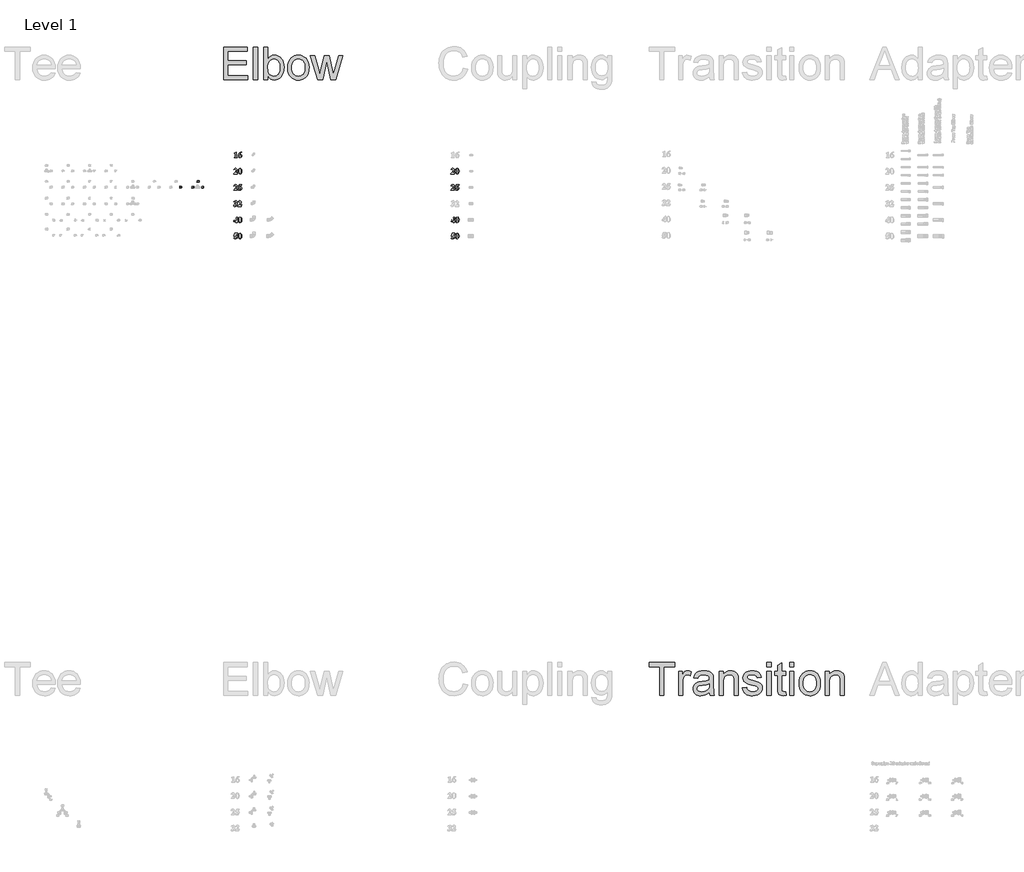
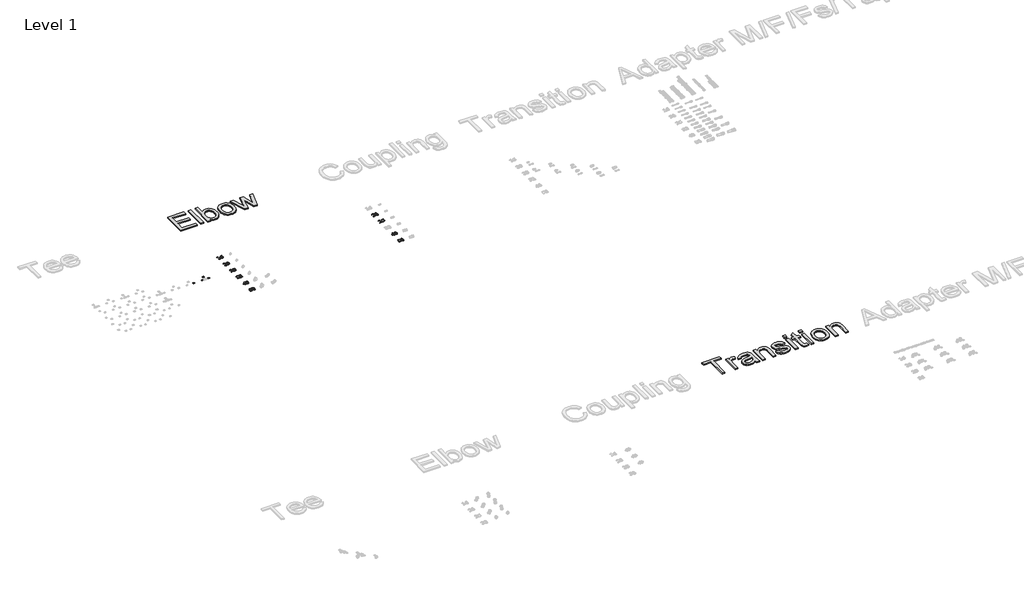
# One storey, part 37 of 57: 16 proxies.
"""IFC4 building model written with IfcOpenShell, lengths in millimetres."""

from ifc_helpers import new_model, si_unit, frame, origin, place, context, project, spatial, polyline, outline, extrude, element, save

model = new_model("IFC4")

# Units and contexts
model_context = context("Model", 3, world=origin())
ifc_project = project(units=[si_unit("LENGTHUNIT", "METRE", prefix="MILLI")], contexts=[model_context])

# Site, building, storey
site = spatial("IfcSite", under=ifc_project)
building = spatial("IfcBuilding", under=site)
storey = spatial("IfcBuildingStorey", under=building, Name="Level 1", Elevation=27.3876384)

# Proxies
placement = place(None, origin())
element("IfcBuildingElementProxy", 1, Name="100mm Arial", ObjectType="100mm Arial", at=placement, inside=storey, context=model_context, shape_type="SweptSolid", body=[
    extrude(outline(polyline([(21101.8109742, 29845.7038824), (21039.9478842, 29845.7038824), (21039.9478842, 29847.4488087), (21075.7188732, 29892.0534871), (21081.8261152, 29914.4376196), (21076.6049686, 29927.6745214), (21063.8588273, 29932.950197), (21052.8712446, 29930.0192661), (21044.6646381, 29921.2264735), (21041.8563973, 29922.235259), (21047.1150326, 29934.73602), (21054.5480097, 29943.5015482), (21063.725913, 29948.674982), (21074.2193272, 29950.3994599), (21088.7512914, 29946.8141817), (21099.0436301, 29936.9989713), (21102.7652307, 29925.3161445), (21097.2578071, 29905.1676987), (21085.2546227, 29888.6249795), (21064.3495878, 29866.6429979), (21086.3247533, 29866.6429979), (21096.8624723, 29867.2428163), (21100.8703498, 29869.2876518), (21105.0009175, 29875.3676294), (21108.0000096, 29875.3676294), (21101.8109742, 29845.7038824)])), frame((0.0, 0.0, 27.3876384), z_axis=(0.0, 0.0, 1.0), x_axis=(1.0, 0.0, 0.0)), (0.0, 0.0, 1.0), 2.0),
    extrude(outline(polyline([(21190.0115453, 29897.179208), (21185.5674362, 29868.60604), (21178.4514086, 29855.2737126), (21168.3090246, 29847.0125771), (21155.9582182, 29843.9589561), (21142.1760269, 29847.7214535), (21131.2838698, 29858.5181849), (21125.3129502, 29872.1504215), (21121.9594199, 29895.9795712), (21126.7852317, 29926.5703103), (21131.7746303, 29936.7569991), (21138.8361289, 29944.2513212), (21155.9582182, 29950.3994599), (21173.0939396, 29944.3331146), (21184.8040309, 29928.0153274), (21190.0115453, 29897.179208)]), holes=[polyline([(21167.3275035, 29897.179208), (21166.9730654, 29928.5333524), (21162.8561299, 29942.7381429), (21155.9036892, 29945.1646811), (21150.0690919, 29943.3379614), (21145.7613051, 29934.0135115), (21144.6434617, 29887.3639976), (21146.3611236, 29858.1910112), (21150.0554597, 29851.0068225), (21156.4217142, 29849.193735), (21162.8561299, 29851.6202731), (21166.9730654, 29864.6799559), (21167.3275035, 29897.179208)])]), frame((0.0, 0.0, 27.3876384), z_axis=(0.0, 0.0, 1.0), x_axis=(1.0, 0.0, 0.0)), (0.0, 0.0, 1.0), 2.0),
])
element("IfcBuildingElementProxy", 2, Name="100mm Arial", ObjectType="100mm Arial", at=placement, inside=storey, context=model_context, shape_type="SweptSolid", body=[
    extrude(outline(polyline([(21101.8109742, 29545.7013539), (21039.9478842, 29545.7013539), (21039.9478842, 29547.4462802), (21075.7188732, 29592.0509586), (21081.8261152, 29614.4350911), (21076.6049686, 29627.6719929), (21063.8588273, 29632.9476685), (21052.8712446, 29630.0167376), (21044.6646381, 29621.223945), (21041.8563973, 29622.2327305), (21047.1150326, 29634.7334915), (21054.5480097, 29643.4990197), (21063.725913, 29648.6724535), (21074.2193272, 29650.3969314), (21088.7512914, 29646.8116532), (21099.0436301, 29636.9964428), (21102.7652307, 29625.313616), (21097.2578071, 29605.1651702), (21085.2546227, 29588.622451), (21064.3495878, 29566.6404694), (21086.3247533, 29566.6404694), (21096.8624723, 29567.2402878), (21100.8703498, 29569.2851233), (21105.0009175, 29575.3651009), (21108.0000096, 29575.3651009), (21101.8109742, 29545.7013539)])), frame((0.0, 0.0, 27.3876384), z_axis=(0.0, 0.0, 1.0), x_axis=(1.0, 0.0, 0.0)), (0.0, 0.0, 1.0), 2.0),
    extrude(outline(polyline([(21141.1536091, 29648.6520051), (21190.0115453, 29648.6520051), (21183.0318402, 29627.7128896), (21138.7543355, 29627.7128896), (21135.5643921, 29618.9882582), (21159.8570378, 29615.2121286), (21177.8243258, 29605.846782), (21186.9647404, 29594.5933707), (21190.0115453, 29580.899789), (21184.3132704, 29562.1963603), (21168.5953015, 29548.5095947), (21146.6065038, 29543.9564276), (21126.7852317, 29548.7549749), (21121.9594199, 29556.4708209), (21124.4813837, 29562.3463149), (21130.3568777, 29564.8955431), (21136.4913842, 29563.5868484), (21147.1245288, 29556.6889367), (21155.3038708, 29551.9176538), (21160.729501, 29550.9361328), (21171.5807614, 29555.5029321), (21176.052135, 29566.4768826), (21172.6577081, 29578.5141476), (21162.4744273, 29588.0703454), (21147.1177127, 29594.3070937), (21128.2029843, 29596.3860098), (21121.9594199, 29596.3042164), (21141.1536091, 29648.6520051)])), frame((0.0, 0.0, 27.3876384), z_axis=(0.0, 0.0, 1.0), x_axis=(1.0, 0.0, 0.0)), (0.0, 0.0, 1.0), 2.0),
])
element("IfcBuildingElementProxy", 3, Name="100mm Arial", ObjectType="100mm Arial", at=placement, inside=storey, context=model_context, shape_type="SweptSolid", body=[
    extrude(outline(polyline([(21043.4377368, 28984.3646753), (21092.7046401, 29050.6718744), (21102.7652307, 29050.6718744), (21102.7652307, 28984.3646753), (21111.4898622, 28984.3646753), (21111.4898622, 28968.6603387), (21102.7652307, 28968.6603387), (21102.7652307, 28945.9762969), (21080.0811889, 28945.9762969), (21080.0811889, 28968.6603387), (21043.4377368, 28968.6603387), (21043.4377368, 28984.3646753)]), holes=[polyline([(21048.7270446, 28984.3646753), (21080.0811889, 28984.3646753), (21080.0811889, 29026.5428155), (21048.7270446, 28984.3646753)])]), frame((0.0, 0.0, 27.3876384), z_axis=(0.0, 0.0, 1.0), x_axis=(1.0, 0.0, 0.0)), (0.0, 0.0, 1.0), 2.0),
    extrude(outline(polyline([(21190.0115453, 28997.4516225), (21185.5674362, 28968.8784545), (21178.4514086, 28955.546127), (21168.3090246, 28947.2849916), (21155.9582182, 28944.2313706), (21142.1760269, 28947.9938679), (21131.2838698, 28958.7905994), (21125.3129502, 28972.422836), (21121.9594199, 28996.2519857), (21126.7852317, 29026.8427248), (21131.7746303, 29037.0294136), (21138.8361289, 29044.5237357), (21155.9582182, 29050.6718744), (21173.0939396, 29044.6055291), (21184.8040309, 29028.2877418), (21190.0115453, 28997.4516225)]), holes=[polyline([(21167.3275035, 28997.4516225), (21166.9730654, 29028.8057668), (21162.8561299, 29043.0105574), (21155.9036892, 29045.4370956), (21150.0690919, 29043.6103758), (21145.7613051, 29034.285926), (21144.6434617, 28987.6364121), (21146.3611236, 28958.4634257), (21150.0554597, 28951.279237), (21156.4217142, 28949.4661495), (21162.8561299, 28951.8926876), (21166.9730654, 28964.9523703), (21167.3275035, 28997.4516225)])]), frame((0.0, 0.0, 27.3876384), z_axis=(0.0, 0.0, 1.0), x_axis=(1.0, 0.0, 0.0)), (0.0, 0.0, 1.0), 2.0),
])
element("IfcBuildingElementProxy", 4, Name="100mm Arial", ObjectType="100mm Arial", at=placement, inside=storey, context=model_context, shape_type="SweptSolid", body=[
    extrude(outline(polyline([(21062.631926, 28748.9244196), (21111.4898622, 28748.9244196), (21104.510157, 28727.9853041), (21060.2326524, 28727.9853041), (21057.042709, 28719.2606727), (21081.3353547, 28715.4845431), (21099.3026426, 28706.1191965), (21108.4430573, 28694.8657852), (21111.4898622, 28681.1722034), (21105.7915873, 28662.4687748), (21090.0736184, 28648.7820091), (21068.0848207, 28644.2288421), (21048.2635486, 28649.0273894), (21043.4377368, 28656.7432354), (21045.9597006, 28662.6187294), (21051.8351946, 28665.1679576), (21057.9697011, 28663.8592629), (21068.6028457, 28656.9613511), (21076.7821877, 28652.1900683), (21082.2078178, 28651.2085473), (21093.0590782, 28655.7753466), (21097.5304518, 28666.7492971), (21094.1360249, 28678.786562), (21083.9527441, 28688.3427599), (21068.5960295, 28694.5795082), (21049.6813012, 28696.6584243), (21043.4377368, 28696.5766309), (21062.631926, 28748.9244196)])), frame((0.0, 0.0, 27.3876384), z_axis=(0.0, 0.0, 1.0), x_axis=(1.0, 0.0, 0.0)), (0.0, 0.0, 1.0), 2.0),
    extrude(outline(polyline([(21190.0115453, 28697.449094), (21185.5674362, 28668.875926), (21178.4514086, 28655.5435985), (21168.3090246, 28647.2824631), (21155.9582182, 28644.2288421), (21142.1760269, 28647.9913394), (21131.2838698, 28658.7880709), (21125.3129502, 28672.4203075), (21121.9594199, 28696.2494572), (21126.7852317, 28726.8401962), (21131.7746303, 28737.0268851), (21138.8361289, 28744.5212072), (21155.9582182, 28750.6693459), (21173.0939396, 28744.6030006), (21184.8040309, 28728.2852133), (21190.0115453, 28697.449094)]), holes=[polyline([(21167.3275035, 28697.449094), (21166.9730654, 28728.8032383), (21162.8561299, 28743.0080289), (21155.9036892, 28745.434567), (21150.0690919, 28743.6078473), (21145.7613051, 28734.2833975), (21144.6434617, 28687.6338836), (21146.3611236, 28658.4608972), (21150.0554597, 28651.2767085), (21156.4217142, 28649.463621), (21162.8561299, 28651.8901591), (21166.9730654, 28664.9498418), (21167.3275035, 28697.449094)])]), frame((0.0, 0.0, 27.3876384), z_axis=(0.0, 0.0, 1.0), x_axis=(1.0, 0.0, 0.0)), (0.0, 0.0, 1.0), 2.0),
])
element("IfcBuildingElementProxy", 5, Name="100mm Arial", ObjectType="100mm Arial", at=placement, inside=storey, context=model_context, shape_type="SweptSolid", body=[
    extrude(outline(polyline([(17077.4401841, 30250.6719885), (17077.4401841, 30166.9155264), (17078.299015, 30155.2190674), (17081.9115577, 30151.0748674), (17090.7179826, 30149.4662635), (17093.1445207, 30149.4662635), (17093.1445207, 30145.9764109), (17037.3068794, 30145.9764109), (17037.3068794, 30149.4662635), (17040.1151201, 30149.4662635), (17049.8212726, 30150.9385451), (17053.7337245, 30154.9736871), (17054.7561423, 30166.9155264), (17054.7561423, 30219.2633152), (17054.1017949, 30227.9197855), (17051.6752568, 30230.9052453), (17047.5855858, 30232.1594111), (17038.6155741, 30229.732873), (17037.3068794, 30233.2227255), (17074.959117, 30250.6719885), (17077.4401841, 30250.6719885)])), frame((0.0, 0.0, 27.3876384), z_axis=(0.0, 0.0, 1.0), x_axis=(1.0, 0.0, 0.0)), (0.0, 0.0, 1.0), 2.0),
    extrude(outline(polyline([(17178.645909, 30250.6719885), (17178.645909, 30248.9270622), (17156.6298468, 30239.8479926), (17143.5156351, 30226.3520783), (17136.0588017, 30206.694393), (17141.6207543, 30209.229989), (17151.5995515, 30210.5386837), (17162.2224719, 30208.4836241), (17170.9164308, 30202.318445), (17176.7135395, 30192.6088845), (17178.645909, 30179.9206802), (17174.4062834, 30161.6262186), (17162.3826507, 30148.7710194), (17145.7376897, 30144.2314846), (17127.9339886, 30149.4117346), (17115.1742151, 30164.584414), (17110.5937836, 30186.300567), (17112.6965561, 30202.9284876), (17119.0048736, 30218.2954264), (17129.1813383, 30231.5323282), (17142.8885523, 30241.7701379), (17159.5641858, 30248.3647324), (17178.645909, 30250.6719885)]), holes=[polyline([(17135.0227517, 30201.0779115), (17133.2778254, 30185.8915999), (17135.4726155, 30165.8385797), (17141.4844319, 30152.2472398), (17147.9461121, 30149.4662635), (17154.7213337, 30153.4877733), (17157.7067935, 30169.8328251), (17156.3844666, 30187.3502492), (17152.4174857, 30198.4605221), (17143.2293582, 30203.5589786), (17135.0227517, 30201.0779115)])]), frame((0.0, 0.0, 27.3876384), z_axis=(0.0, 0.0, 1.0), x_axis=(1.0, 0.0, 0.0)), (0.0, 0.0, 1.0), 2.0),
])
element("IfcBuildingElementProxy", 6, Name="100mm Arial", ObjectType="100mm Arial", at=placement, inside=storey, context=model_context, shape_type="SweptSolid", body=[
    extrude(outline(polyline([(17090.4453378, 29845.7038824), (17028.5822479, 29845.7038824), (17028.5822479, 29847.4488087), (17064.3532369, 29892.0534871), (17070.4604789, 29914.4376196), (17065.2393323, 29927.6745214), (17052.493191, 29932.950197), (17041.5056082, 29930.0192661), (17033.2990018, 29921.2264735), (17030.490761, 29922.235259), (17035.7493963, 29934.73602), (17043.1823734, 29943.5015482), (17052.3602767, 29948.674982), (17062.8536909, 29950.3994599), (17077.3856551, 29946.8141817), (17087.6779938, 29936.9989713), (17091.3995944, 29925.3161445), (17085.8921708, 29905.1676987), (17073.8889864, 29888.6249795), (17052.9839515, 29866.6429979), (17074.959117, 29866.6429979), (17085.4968359, 29867.2428163), (17089.5047135, 29869.2876518), (17093.6352812, 29875.3676294), (17096.6343733, 29875.3676294), (17090.4453378, 29845.7038824)])), frame((0.0, 0.0, 27.3876384), z_axis=(0.0, 0.0, 1.0), x_axis=(1.0, 0.0, 0.0)), (0.0, 0.0, 1.0), 2.0),
    extrude(outline(polyline([(17178.645909, 29897.179208), (17174.2017999, 29868.60604), (17167.0857723, 29855.2737126), (17156.9433883, 29847.0125771), (17144.5925818, 29843.9589561), (17130.8103906, 29847.7214535), (17119.9182335, 29858.5181849), (17113.9473138, 29872.1504215), (17110.5937836, 29895.9795712), (17115.4195954, 29926.5703103), (17120.408994, 29936.7569991), (17127.4704926, 29944.2513212), (17144.5925818, 29950.3994599), (17161.7283033, 29944.3331146), (17173.4383946, 29928.0153274), (17178.645909, 29897.179208)]), holes=[polyline([(17155.9618672, 29897.179208), (17155.6074291, 29928.5333524), (17151.4904936, 29942.7381429), (17144.5380529, 29945.1646811), (17138.7034556, 29943.3379614), (17134.3956688, 29934.0135115), (17133.2778254, 29887.3639976), (17134.9954872, 29858.1910112), (17138.6898234, 29851.0068225), (17145.0560779, 29849.193735), (17151.4904936, 29851.6202731), (17155.6074291, 29864.6799559), (17155.9618672, 29897.179208)])]), frame((0.0, 0.0, 27.3876384), z_axis=(0.0, 0.0, 1.0), x_axis=(1.0, 0.0, 0.0)), (0.0, 0.0, 1.0), 2.0),
])
element("IfcBuildingElementProxy", 7, Name="100mm Arial", ObjectType="100mm Arial", at=placement, inside=storey, context=model_context, shape_type="SweptSolid", body=[
    extrude(outline(polyline([(17090.4453378, 29545.7013539), (17028.5822479, 29545.7013539), (17028.5822479, 29547.4462802), (17064.3532369, 29592.0509586), (17070.4604789, 29614.4350911), (17065.2393323, 29627.6719929), (17052.493191, 29632.9476685), (17041.5056082, 29630.0167376), (17033.2990018, 29621.223945), (17030.490761, 29622.2327305), (17035.7493963, 29634.7334915), (17043.1823734, 29643.4990197), (17052.3602767, 29648.6724535), (17062.8536909, 29650.3969314), (17077.3856551, 29646.8116532), (17087.6779938, 29636.9964428), (17091.3995944, 29625.313616), (17085.8921708, 29605.1651702), (17073.8889864, 29588.622451), (17052.9839515, 29566.6404694), (17074.959117, 29566.6404694), (17085.4968359, 29567.2402878), (17089.5047135, 29569.2851233), (17093.6352812, 29575.3651009), (17096.6343733, 29575.3651009), (17090.4453378, 29545.7013539)])), frame((0.0, 0.0, 27.3876384), z_axis=(0.0, 0.0, 1.0), x_axis=(1.0, 0.0, 0.0)), (0.0, 0.0, 1.0), 2.0),
    extrude(outline(polyline([(17129.7879728, 29648.6520051), (17178.645909, 29648.6520051), (17171.6662038, 29627.7128896), (17127.3886992, 29627.7128896), (17124.1987558, 29618.9882582), (17148.4914015, 29615.2121286), (17166.4586894, 29605.846782), (17175.5991041, 29594.5933707), (17178.645909, 29580.899789), (17172.9476341, 29562.1963603), (17157.2296652, 29548.5095947), (17135.2408675, 29543.9564276), (17115.4195954, 29548.7549749), (17110.5937836, 29556.4708209), (17113.1157474, 29562.3463149), (17118.9912414, 29564.8955431), (17125.1257479, 29563.5868484), (17135.7588925, 29556.6889367), (17143.9382345, 29551.9176538), (17149.3638647, 29550.9361328), (17160.2151251, 29555.5029321), (17164.6864987, 29566.4768826), (17161.2920717, 29578.5141476), (17151.108791, 29588.0703454), (17135.7520764, 29594.3070937), (17116.837348, 29596.3860098), (17110.5937836, 29596.3042164), (17129.7879728, 29648.6520051)])), frame((0.0, 0.0, 27.3876384), z_axis=(0.0, 0.0, 1.0), x_axis=(1.0, 0.0, 0.0)), (0.0, 0.0, 1.0), 2.0),
])
element("IfcBuildingElementProxy", 8, Name="100mm Arial", ObjectType="100mm Arial", at=placement, inside=storey, context=model_context, shape_type="SweptSolid", body=[
    extrude(outline(polyline([(17047.7764371, 29301.5464668), (17047.7764371, 29303.291393), (17060.2090369, 29308.1035726), (17066.1935888, 29314.8924264), (17068.7155526, 29324.1487151), (17064.012431, 29335.2862525), (17052.3023397, 29339.9348452), (17042.241749, 29337.5014909), (17033.8170268, 29330.2014282), (17032.0721005, 29331.2102137), (17046.4813746, 29345.5922234), (17066.0708987, 29350.4044029), (17076.1212652, 29348.9525697), (17084.2426702, 29344.5970701), (17089.6103633, 29338.2989768), (17091.3995944, 29331.0193624), (17087.3917168, 29321.2450487), (17074.8227946, 29312.9702811), (17091.0451563, 29301.6827891), (17095.237069, 29294.1237139), (17096.6343733, 29284.8606091), (17093.6420973, 29269.0983355), (17084.6652695, 29255.8921062), (17070.6649625, 29246.9459509), (17052.6022489, 29243.9638991), (17041.0012155, 29245.2453294), (17033.026357, 29249.0896201), (17028.5822479, 29258.3868055), (17031.1587406, 29265.4619363), (17037.116028, 29268.3928672), (17041.9691043, 29267.3022883), (17050.8300581, 29260.5679634), (17065.1166421, 29254.4334569), (17075.0409104, 29258.8911983), (17079.1851104, 29270.1923224), (17077.1845796, 29280.2017922), (17071.1829874, 29289.4001439), (17061.3302884, 29296.8331209), (17047.7764371, 29301.5464668)])), frame((0.0, 0.0, 27.3876384), z_axis=(0.0, 0.0, 1.0), x_axis=(1.0, 0.0, 0.0)), (0.0, 0.0, 1.0), 2.0),
    extrude(outline(polyline([(17168.967021, 29245.7088254), (17107.103931, 29245.7088254), (17107.103931, 29247.4537517), (17142.87492, 29292.05843), (17148.982162, 29314.4425626), (17143.7610154, 29327.6794644), (17131.0148741, 29332.95514), (17120.0272914, 29330.0242091), (17111.8206849, 29321.2314165), (17109.0124442, 29322.240202), (17114.2710795, 29334.740963), (17121.7040565, 29343.5064912), (17130.8819598, 29348.679925), (17141.375374, 29350.4044029), (17155.9073383, 29346.8191247), (17166.1996769, 29337.0039143), (17169.9212776, 29325.3210875), (17164.4138539, 29305.1726417), (17152.4106696, 29288.6299225), (17131.5056347, 29266.6479409), (17153.4808001, 29266.6479409), (17164.0185191, 29267.2477593), (17168.0263967, 29269.2925948), (17172.1569644, 29275.3725724), (17175.1560564, 29275.3725724), (17168.967021, 29245.7088254)])), frame((0.0, 0.0, 27.3876384), z_axis=(0.0, 0.0, 1.0), x_axis=(1.0, 0.0, 0.0)), (0.0, 0.0, 1.0), 2.0),
])
element("IfcBuildingElementProxy", 9, Name="100mm Arial", ObjectType="100mm Arial", at=placement, inside=storey, context=model_context, shape_type="SweptSolid", body=[
    extrude(outline(polyline([(17032.0721005, 28984.3646753), (17081.3390038, 29050.6718744), (17091.3995944, 29050.6718744), (17091.3995944, 28984.3646753), (17100.1242259, 28984.3646753), (17100.1242259, 28968.6603387), (17091.3995944, 28968.6603387), (17091.3995944, 28945.9762969), (17068.7155526, 28945.9762969), (17068.7155526, 28968.6603387), (17032.0721005, 28968.6603387), (17032.0721005, 28984.3646753)]), holes=[polyline([(17037.3614083, 28984.3646753), (17068.7155526, 28984.3646753), (17068.7155526, 29026.5428155), (17037.3614083, 28984.3646753)])]), frame((0.0, 0.0, 27.3876384), z_axis=(0.0, 0.0, 1.0), x_axis=(1.0, 0.0, 0.0)), (0.0, 0.0, 1.0), 2.0),
    extrude(outline(polyline([(17178.645909, 28997.4516225), (17174.2017999, 28968.8784545), (17167.0857723, 28955.546127), (17156.9433883, 28947.2849916), (17144.5925818, 28944.2313706), (17130.8103906, 28947.9938679), (17119.9182335, 28958.7905994), (17113.9473138, 28972.422836), (17110.5937836, 28996.2519857), (17115.4195954, 29026.8427248), (17120.408994, 29037.0294136), (17127.4704926, 29044.5237357), (17144.5925818, 29050.6718744), (17161.7283033, 29044.6055291), (17173.4383946, 29028.2877418), (17178.645909, 28997.4516225)]), holes=[polyline([(17155.9618672, 28997.4516225), (17155.6074291, 29028.8057668), (17151.4904936, 29043.0105574), (17144.5380529, 29045.4370956), (17138.7034556, 29043.6103758), (17134.3956688, 29034.285926), (17133.2778254, 28987.6364121), (17134.9954872, 28958.4634257), (17138.6898234, 28951.279237), (17145.0560779, 28949.4661495), (17151.4904936, 28951.8926876), (17155.6074291, 28964.9523703), (17155.9618672, 28997.4516225)])]), frame((0.0, 0.0, 27.3876384), z_axis=(0.0, 0.0, 1.0), x_axis=(1.0, 0.0, 0.0)), (0.0, 0.0, 1.0), 2.0),
])
element("IfcBuildingElementProxy", 10, Name="100mm Arial", ObjectType="100mm Arial", at=placement, inside=storey, context=model_context, shape_type="SweptSolid", body=[
    extrude(outline(polyline([(17051.2662897, 28748.9244196), (17100.1242259, 28748.9244196), (17093.1445207, 28727.9853041), (17048.867016, 28727.9853041), (17045.6770727, 28719.2606727), (17069.9697184, 28715.4845431), (17087.9370063, 28706.1191965), (17097.077421, 28694.8657852), (17100.1242259, 28681.1722034), (17094.4259509, 28662.4687748), (17078.7079821, 28648.7820091), (17056.7191844, 28644.2288421), (17036.8979123, 28649.0273894), (17032.0721005, 28656.7432354), (17034.5940643, 28662.6187294), (17040.4695583, 28665.1679576), (17046.6040648, 28663.8592629), (17057.2372093, 28656.9613511), (17065.4165513, 28652.1900683), (17070.8421815, 28651.2085473), (17081.6934419, 28655.7753466), (17086.1648155, 28666.7492971), (17082.7703886, 28678.786562), (17072.5871078, 28688.3427599), (17057.2303932, 28694.5795082), (17038.3156649, 28696.6584243), (17032.0721005, 28696.5766309), (17051.2662897, 28748.9244196)])), frame((0.0, 0.0, 27.3876384), z_axis=(0.0, 0.0, 1.0), x_axis=(1.0, 0.0, 0.0)), (0.0, 0.0, 1.0), 2.0),
    extrude(outline(polyline([(17178.645909, 28697.449094), (17174.2017999, 28668.875926), (17167.0857723, 28655.5435985), (17156.9433883, 28647.2824631), (17144.5925818, 28644.2288421), (17130.8103906, 28647.9913394), (17119.9182335, 28658.7880709), (17113.9473138, 28672.4203075), (17110.5937836, 28696.2494572), (17115.4195954, 28726.8401962), (17120.408994, 28737.0268851), (17127.4704926, 28744.5212072), (17144.5925818, 28750.6693459), (17161.7283033, 28744.6030006), (17173.4383946, 28728.2852133), (17178.645909, 28697.449094)]), holes=[polyline([(17155.9618672, 28697.449094), (17155.6074291, 28728.8032383), (17151.4904936, 28743.0080289), (17144.5380529, 28745.434567), (17138.7034556, 28743.6078473), (17134.3956688, 28734.2833975), (17133.2778254, 28687.6338836), (17134.9954872, 28658.4608972), (17138.6898234, 28651.2767085), (17145.0560779, 28649.463621), (17151.4904936, 28651.8901591), (17155.6074291, 28664.9498418), (17155.9618672, 28697.449094)])]), frame((0.0, 0.0, 27.3876384), z_axis=(0.0, 0.0, 1.0), x_axis=(1.0, 0.0, 0.0)), (0.0, 0.0, 1.0), 2.0),
])
element("IfcBuildingElementProxy", 11, Name="30mm Arial", ObjectType="30mm Arial", at=placement, inside=storey, context=model_context, shape_type="SweptSolid", body=[
    extrude(outline(polyline([(16040.6628204, 29586.7013539), (16034.8327667, 29586.7013539), (16034.8327667, 29608.5792378), (16027.5451995, 29603.7056773), (16027.5451995, 29609.535731), (16032.4111688, 29612.3938237), (16036.0169963, 29617.3091359), (16040.6628204, 29617.3091359), (16040.6628204, 29586.7013539)])), frame((0.0, 0.0, 27.3876384), z_axis=(0.0, 0.0, 1.0), x_axis=(1.0, 0.0, 0.0)), (0.0, 0.0, 1.0), 2.0),
    extrude(outline(polyline([(16068.3555755, 29609.186535), (16062.5255218, 29608.5640553), (16061.4931165, 29611.1336819), (16059.3220287, 29611.96492), (16056.3310897, 29610.3517867), (16054.7900729, 29603.5766266), (16060.1191064, 29606.1348663), (16066.279378, 29603.4020286), (16068.8414133, 29596.3497892), (16066.2224439, 29588.9901055), (16059.4890355, 29586.2155161), (16052.2470156, 29589.79857), (16049.4079009, 29601.5421808), (16052.3722707, 29613.6122138), (16060.0735591, 29617.3091359), (16065.5771905, 29615.2291428), (16068.3555755, 29609.186535)]), holes=[polyline([(16055.2379547, 29596.4788398), (16056.4980965, 29592.8388519), (16059.3751673, 29591.559732), (16061.971363, 29592.6073198), (16063.0113596, 29596.0461405), (16061.8916553, 29599.6481724), (16059.0942923, 29600.7906504), (16056.357659, 29599.6975153), (16055.2379547, 29596.4788398)])]), frame((0.0, 0.0, 27.3876384), z_axis=(0.0, 0.0, 1.0), x_axis=(1.0, 0.0, 0.0)), (0.0, 0.0, 1.0), 2.0),
])
element("IfcBuildingElementProxy", 12, Name="30mm Arial", ObjectType="30mm Arial", at=placement, inside=storey, context=model_context, shape_type="SweptSolid", body=[
    extrude(outline(polyline([(16369.1677636, 29696.4736422), (16369.1677636, 29690.6435885), (16349.7342512, 29690.6435885), (16351.5940991, 29696.3635696), (16357.7050278, 29703.5334729), (16362.21421, 29708.4222158), (16363.3377099, 29711.9293575), (16362.3926035, 29714.8785448), (16359.7850209, 29715.9071546), (16357.1736427, 29714.8937273), (16356.0501428, 29711.5346143), (16350.2200891, 29712.0659994), (16353.34767, 29719.1144432), (16359.9140716, 29721.2513705), (16366.7006185, 29718.8563419), (16369.1677636, 29712.9010331), (16368.4921454, 29709.0446955), (16366.3514226, 29705.2111315), (16362.726617, 29701.3851588), (16359.3978689, 29698.0677975), (16358.3047339, 29696.4736422), (16369.1677636, 29696.4736422)])), frame((0.0, 0.0, 27.3876384), z_axis=(0.0, 0.0, 1.0), x_axis=(1.0, 0.0, 0.0)), (0.0, 0.0, 1.0), 2.0),
    extrude(outline(polyline([(16373.0544661, 29699.2596184), (16378.398682, 29699.8745068), (16379.8865603, 29696.678605), (16382.7408574, 29695.5019666), (16385.8646427, 29696.7507216), (16387.1437626, 29700.512169), (16385.9557373, 29704.0420843), (16382.8623169, 29705.2187228), (16378.5960536, 29702.7895337), (16373.5403039, 29703.5410641), (16376.9411686, 29720.7655327), (16391.5163029, 29720.7655327), (16391.5163029, 29714.9354789), (16381.6553136, 29714.9354789), (16380.4786751, 29709.3711178), (16384.2363269, 29710.5629387), (16390.430759, 29707.8035317), (16392.9738163, 29700.6412196), (16390.8558671, 29694.0900004), (16382.831952, 29690.1577507), (16376.1478865, 29692.6248958), (16373.0544661, 29699.2596184)])), frame((0.0, 0.0, 27.3876384), z_axis=(0.0, 0.0, 1.0), x_axis=(1.0, 0.0, 0.0)), (0.0, 0.0, 1.0), 2.0),
])
element("IfcBuildingElementProxy", 13, Name="30mm Arial", ObjectType="30mm Arial", at=placement, inside=storey, context=model_context, shape_type="SweptSolid", body=[
    extrude(outline(polyline([(16453.0726096, 29592.5314076), (16453.0726096, 29586.7013539), (16433.6390972, 29586.7013539), (16435.4989451, 29592.421335), (16441.6098738, 29599.5912383), (16446.119056, 29604.4799813), (16447.2425559, 29607.9871229), (16446.2974495, 29610.9363103), (16443.6898669, 29611.96492), (16441.0784887, 29610.9514927), (16439.9549887, 29607.5923797), (16434.124935, 29608.1237648), (16437.2525159, 29615.1722087), (16443.8189176, 29617.3091359), (16450.6054645, 29614.9141073), (16453.0726096, 29608.9587986), (16452.3969914, 29605.102461), (16450.2562686, 29601.268897), (16446.631463, 29597.4429242), (16443.3027149, 29594.1255629), (16442.2095798, 29592.5314076), (16453.0726096, 29592.5314076)])), frame((0.0, 0.0, 27.3876384), z_axis=(0.0, 0.0, 1.0), x_axis=(1.0, 0.0, 0.0)), (0.0, 0.0, 1.0), 2.0),
    extrude(outline(polyline([(16466.6760683, 29617.3091359), (16473.4702064, 29614.1511902), (16476.3928245, 29601.7547348), (16473.455024, 29589.3279146), (16466.6760683, 29586.2155161), (16459.6352156, 29589.6315632), (16456.9593121, 29601.8154645), (16459.8971126, 29614.1967375), (16466.6760683, 29617.3091359)]), holes=[polyline([(16466.6760683, 29611.96492), (16464.732717, 29611.3234623), (16463.4118455, 29609.0195283), (16462.7893658, 29601.7547348), (16463.3435245, 29594.7366558), (16464.7441039, 29592.1935985), (16466.6760683, 29591.559732), (16468.6194195, 29592.2011897), (16469.9402911, 29594.5051237), (16470.5627707, 29601.7547348), (16470.008612, 29608.7690182), (16468.6080327, 29611.3234623), (16466.6760683, 29611.96492)])]), frame((0.0, 0.0, 27.3876384), z_axis=(0.0, 0.0, 1.0), x_axis=(1.0, 0.0, 0.0)), (0.0, 0.0, 1.0), 2.0),
])
element("IfcBuildingElementProxy", 14, Name="30mm Arial", ObjectType="30mm Arial", at=placement, inside=storey, context=model_context, shape_type="SweptSolid", body=[
    extrude(outline(polyline([(16273.0726096, 29592.5314076), (16273.0726096, 29586.7013539), (16253.6390972, 29586.7013539), (16255.4989451, 29592.421335), (16261.6098738, 29599.5912383), (16266.119056, 29604.4799813), (16267.2425559, 29607.9871229), (16266.2974495, 29610.9363103), (16263.6898669, 29611.96492), (16261.0784887, 29610.9514927), (16259.9549887, 29607.5923797), (16254.124935, 29608.1237648), (16257.2525159, 29615.1722087), (16263.8189176, 29617.3091359), (16270.6054645, 29614.9141073), (16273.0726096, 29608.9587986), (16272.3969914, 29605.102461), (16270.2562686, 29601.268897), (16266.631463, 29597.4429242), (16263.3027149, 29594.1255629), (16262.2095798, 29592.5314076), (16273.0726096, 29592.5314076)])), frame((0.0, 0.0, 27.3876384), z_axis=(0.0, 0.0, 1.0), x_axis=(1.0, 0.0, 0.0)), (0.0, 0.0, 1.0), 2.0),
    extrude(outline(polyline([(16286.6760683, 29617.3091359), (16293.4702064, 29614.1511902), (16296.3928245, 29601.7547348), (16293.455024, 29589.3279146), (16286.6760683, 29586.2155161), (16279.6352156, 29589.6315632), (16276.9593121, 29601.8154645), (16279.8971126, 29614.1967375), (16286.6760683, 29617.3091359)]), holes=[polyline([(16286.6760683, 29611.96492), (16284.732717, 29611.3234623), (16283.4118455, 29609.0195283), (16282.7893658, 29601.7547348), (16283.3435245, 29594.7366558), (16284.7441039, 29592.1935985), (16286.6760683, 29591.559732), (16288.6194195, 29592.2011897), (16289.9402911, 29594.5051237), (16290.5627707, 29601.7547348), (16290.008612, 29608.7690182), (16288.6080327, 29611.3234623), (16286.6760683, 29611.96492)])]), frame((0.0, 0.0, 27.3876384), z_axis=(0.0, 0.0, 1.0), x_axis=(1.0, 0.0, 0.0)), (0.0, 0.0, 1.0), 2.0),
])
element("IfcBuildingElementProxy", 15, Name="600mm Arial", ObjectType="600mm Arial", at=placement, inside=storey, context=model_context, shape_type="SweptSolid", body=[
    extrude(outline(polyline([(24897.427256, 20213.7679008), (24897.427256, 20741.1635291), (24699.6538954, 20741.1635291), (24699.6538954, 20816.5057617), (25170.5428492, 20816.5057617), (25170.5428492, 20741.1635291), (24972.7694886, 20741.1635291), (24972.7694886, 20213.7679008), (24897.427256, 20213.7679008)])), frame((0.0, 0.0, 27.3876384), z_axis=(0.0, 0.0, 1.0), x_axis=(1.0, 0.0, 0.0)), (0.0, 0.0, 1.0), 30.0),
    extrude(outline(polyline([(25245.8850818, 20213.7679008), (25245.8850818, 20656.4035174), (25311.8095354, 20656.4035174), (25311.8095354, 20590.9205223), (25336.1633235, 20628.8859442), (25358.6041252, 20651.2531695), (25381.1185033, 20662.1792647), (25405.6930205, 20665.8212965), (25443.2169841, 20660.008761), (25481.3295588, 20642.5711544), (25456.1664303, 20575.0280201), (25429.6789266, 20586.6163029), (25403.191423, 20590.4790639), (25380.695439, 20586.7634557), (25360.5906879, 20575.6166313), (25344.3486979, 20557.8847191), (25333.4409967, 20534.4138478), (25324.280735, 20492.3281476), (25321.2273145, 20446.4164746), (25321.2273145, 20213.7679008), (25245.8850818, 20213.7679008)])), frame((0.0, 0.0, 27.3876384), z_axis=(0.0, 0.0, 1.0), x_axis=(1.0, 0.0, 0.0)), (0.0, 0.0, 1.0), 30.0),
    extrude(outline(polyline([(25810.9518264, 20270.2745753), (25774.9545732, 20239.4092759), (25737.8904622, 20219.2125543), (25698.9133648, 20208.0657299), (25657.1771524, 20204.3501217), (25623.630913, 20206.5850048), (25594.214149, 20213.2896542), (25568.9268603, 20224.4640698), (25547.7690471, 20240.1082517), (25531.062606, 20259.2289184), (25519.1294338, 20280.8327885), (25511.9695304, 20304.9198622), (25509.582896, 20331.4901393), (25513.1881395, 20362.7233207), (25524.0038702, 20391.0870225), (25540.6873187, 20415.3672342), (25561.8957157, 20434.3499451), (25586.8197209, 20448.6973429), (25614.6499938, 20459.0716152), (25679.8386834, 20470.4023806), (25756.8731731, 20482.3217573), (25810.510368, 20496.3012731), (25810.9518264, 20513.0766921), (25805.7646903, 20546.7011064), (25799.2807701, 20559.153912), (25790.2032819, 20568.7004498), (25774.5131148, 20578.2285934), (25755.4016452, 20585.0344103), (25706.9147982, 20590.4790639), (25662.0331948, 20586.8554262), (25630.6896488, 20575.9845133), (25609.3157049, 20555.8797622), (25594.3429077, 20524.5546103), (25519.0006751, 20533.9723894), (25532.07888, 20575.1751729), (25551.5950198, 20607.5487884), (25579.3701105, 20632.3072467), (25617.2251678, 20650.6645583), (25663.5231169, 20662.0321119), (25716.6268829, 20665.8212965), (25767.5601451, 20662.4735703), (25807.9351941, 20652.4303919), (25838.3774292, 20637.328836), (25859.5122498, 20618.8059775), (25873.5285538, 20595.9053233), (25882.6152391, 20567.6703802), (25886.294059, 20501.7459266), (25886.294059, 20408.0095943), (25890.1200318, 20277.1171804), (25895.7854145, 20244.7619589), (25905.1296172, 20213.7679008), (25829.7873846, 20213.7679008), (25817.7208551, 20239.9610989), (25810.9518264, 20270.2745753)]), holes=[polyline([(25810.9518264, 20420.9590405), (25760.3312639, 20408.4142645), (25689.4036152, 20397.8560512), (25624.5828077, 20385.642369), (25607.7154182, 20377.2914477), (25595.2258245, 20365.7767412), (25587.5003026, 20351.9811664), (25584.9251286, 20336.78764), (25590.535329, 20314.3836265), (25607.3659303, 20296.0263149), (25635.0490504, 20283.7758445), (25673.2168074, 20279.6923543), (25713.6838269, 20284.1989088), (25749.4419568, 20297.7185721), (25778.4310581, 20317.6393821), (25798.5909914, 20341.3493767), (25807.5305239, 20365.7767412), (25810.510368, 20399.6218848), (25810.9518264, 20420.9590405)])]), frame((0.0, 0.0, 27.3876384), z_axis=(0.0, 0.0, 1.0), x_axis=(1.0, 0.0, 0.0)), (0.0, 0.0, 1.0), 30.0),
    extrude(outline(polyline([(25989.8896289, 20213.7679008), (25989.8896289, 20656.4035174), (26065.2318615, 20656.4035174), (26065.2318615, 20594.5993422), (26091.4066655, 20625.7589472), (26122.8421819, 20648.0158079), (26159.538411, 20661.3699243), (26201.4953525, 20665.8212965), (26238.6330399, 20662.234447), (26272.6437304, 20651.4738987), (26301.0074322, 20634.8824207), (26321.2041537, 20613.8027824), (26334.9077581, 20588.290166), (26343.7921082, 20558.3997539), (26347.7652338, 20485.5591188), (26347.7652338, 20213.7679008), (26272.4230012, 20213.7679008), (26272.4230012, 20475.4055758), (26270.2524974, 20514.3642791), (26263.7409861, 20542.0657933), (26251.729639, 20561.9130269), (26233.0596277, 20577.3088884), (26209.1289039, 20587.18652), (26181.3354192, 20590.4790639), (26158.4577576, 20588.6304568), (26137.2079739, 20583.0846358), (26117.5860679, 20573.8416006), (26099.5920398, 20560.9013515), (26084.5594618, 20542.7923602), (26073.8219061, 20518.043099), (26067.3793726, 20486.6535678), (26065.2318615, 20448.6237665), (26065.2318615, 20213.7679008), (25989.8896289, 20213.7679008)])), frame((0.0, 0.0, 27.3876384), z_axis=(0.0, 0.0, 1.0), x_axis=(1.0, 0.0, 0.0)), (0.0, 0.0, 1.0), 30.0),
    extrude(outline(polyline([(26423.1074664, 20345.6168079), (26498.449699, 20355.034587), (26503.0022387, 20337.8544978), (26510.3322875, 20322.8081242), (26520.4398453, 20309.8954661), (26533.3249122, 20299.1165237), (26549.0242763, 20290.6184496), (26567.5747259, 20284.5483967), (26613.2288815, 20279.6923543), (26658.3312141, 20284.1437265), (26675.8607912, 20289.7079417), (26690.0426421, 20297.4978429), (26708.8046239, 20316.8484359), (26713.4951193, 20327.6825606), (26715.0586178, 20339.2892376), (26713.4859222, 20349.4611747), (26708.7678357, 20358.4926777), (26689.8954893, 20373.1343811), (26661.6789403, 20382.699313), (26612.3459647, 20394.6186896), (26543.5888198, 20414.5027115), (26498.8911574, 20431.4804656), (26470.1779677, 20450.003324), (26449.3742409, 20474.522659), (26436.7374943, 20503.474972), (26432.5252455, 20535.2967646), (26435.9097598, 20564.4882009), (26446.0633029, 20591.4355571), (26462.0661697, 20615.0719752), (26482.9986552, 20634.3305977), (26503.802382, 20646.4523094), (26530.896891, 20656.6242466), (26562.2220429, 20663.522034), (26595.7176985, 20665.8212965), (26644.7563685, 20662.1240824), (26687.3938917, 20651.0324403), (26721.6804937, 20633.6316219), (26745.6663998, 20611.0068792), (26761.558902, 20581.4843491), (26771.5652922, 20543.3901685), (26696.2230596, 20533.9723894), (26686.7133101, 20557.682384), (26667.896146, 20575.5430549), (26639.5876265, 20586.7450616), (26601.6038105, 20590.4790639), (26558.3408878, 20586.9106085), (26529.4989394, 20576.2052425), (26513.2753434, 20560.7541987), (26507.8674781, 20542.9487101), (26510.1115583, 20531.3604272), (26516.8437988, 20521.0229432), (26528.3585052, 20511.7891051), (26544.9499832, 20504.394677), (26609.8443672, 20488.355022), (26720.4296949, 20452.8911977), (26749.6395253, 20435.9318377), (26771.7860214, 20412.7184838), (26785.7471432, 20383.1775596), (26790.4008504, 20347.2354887), (26784.9378028, 20310.0794071), (26768.5486599, 20275.1306176), (26741.8588211, 20245.1298409), (26705.4936859, 20222.8177979), (26661.5685757, 20208.9670408), (26612.1988119, 20204.3501217), (26571.649019, 20206.5758078), (26536.2311799, 20213.252866), (26505.9452947, 20224.3812964), (26480.7913633, 20239.9610989), (26460.2451538, 20259.9186971), (26443.7824345, 20284.1805147), (26431.4032054, 20312.7465516), (26423.1074664, 20345.6168079)])), frame((0.0, 0.0, 27.3876384), z_axis=(0.0, 0.0, 1.0), x_axis=(1.0, 0.0, 0.0)), (0.0, 0.0, 1.0), 30.0),
    extrude(outline(polyline([(26875.1608621, 20213.7679008), (26875.1608621, 20656.4035174), (26950.5030947, 20656.4035174), (26950.5030947, 20213.7679008), (26875.1608621, 20213.7679008)])), frame((0.0, 0.0, 27.3876384), z_axis=(0.0, 0.0, 1.0), x_axis=(1.0, 0.0, 0.0)), (0.0, 0.0, 1.0), 30.0),
    extrude(outline(polyline([(26875.1608621, 20741.1635291), (26875.1608621, 20816.5057617), (26950.5030947, 20816.5057617), (26950.5030947, 20741.1635291), (26875.1608621, 20741.1635291)])), frame((0.0, 0.0, 27.3876384), z_axis=(0.0, 0.0, 1.0), x_axis=(1.0, 0.0, 0.0)), (0.0, 0.0, 1.0), 30.0),
    extrude(outline(polyline([(27223.6186879, 20276.6021456), (27233.036467, 20211.5606088), (27176.6769453, 20204.3501217), (27140.5141452, 20207.4771187), (27113.548395, 20216.8581096), (27094.4921076, 20231.315872), (27082.0576962, 20249.6731835), (27075.2150911, 20281.2006705), (27072.9342227, 20335.1689592), (27072.9342227, 20581.0612848), (27016.4275482, 20581.0612848), (27016.4275482, 20656.4035174), (27072.9342227, 20656.4035174), (27072.9342227, 20763.9722128), (27148.2764553, 20808.265205), (27148.2764553, 20656.4035174), (27223.6186879, 20656.4035174), (27223.6186879, 20581.0612848), (27148.2764553, 20581.0612848), (27148.2764553, 20337.3762512), (27152.2495808, 20298.5279125), (27165.1254507, 20284.7691259), (27175.9963636, 20280.9615472), (27190.8036139, 20279.6923543), (27223.6186879, 20276.6021456)])), frame((0.0, 0.0, 27.3876384), z_axis=(0.0, 0.0, 1.0), x_axis=(1.0, 0.0, 0.0)), (0.0, 0.0, 1.0), 30.0),
    extrude(outline(polyline([(27298.9609205, 20213.7679008), (27298.9609205, 20656.4035174), (27374.3031531, 20656.4035174), (27374.3031531, 20213.7679008), (27298.9609205, 20213.7679008)])), frame((0.0, 0.0, 27.3876384), z_axis=(0.0, 0.0, 1.0), x_axis=(1.0, 0.0, 0.0)), (0.0, 0.0, 1.0), 30.0),
    extrude(outline(polyline([(27298.9609205, 20741.1635291), (27298.9609205, 20816.5057617), (27374.3031531, 20816.5057617), (27374.3031531, 20741.1635291), (27298.9609205, 20741.1635291)])), frame((0.0, 0.0, 27.3876384), z_axis=(0.0, 0.0, 1.0), x_axis=(1.0, 0.0, 0.0)), (0.0, 0.0, 1.0), 30.0),
    extrude(outline(polyline([(27468.4809439, 20435.0857091), (27472.555237, 20492.410921), (27484.7781163, 20541.8082759), (27505.1495818, 20583.2777738), (27533.6696334, 20616.8194147), (27562.3828232, 20638.257738), (27594.0758571, 20653.570826), (27628.7487351, 20662.7586789), (27666.4014573, 20665.8212965), (27707.9675242, 20662.0918928), (27745.5512686, 20650.9036816), (27779.1526903, 20632.2566629), (27808.7717894, 20606.1508369), (27832.946235, 20573.4691201), (27850.2136962, 20535.0944295), (27860.5741729, 20491.026765), (27864.0276651, 20441.2661266), (27862.5009548, 20400.9370629), (27857.920824, 20365.1513418), (27850.2872726, 20333.9089634), (27839.6003006, 20307.2099276), (27825.9932653, 20284.148325), (27809.5995239, 20263.8182462), (27790.4190764, 20246.2196913), (27768.4519228, 20231.3526602), (27744.5533887, 20219.5390496), (27719.5787997, 20211.1007563), (27693.5281559, 20206.0377804), (27666.4014573, 20204.3501217), (27624.2283851, 20208.0657299), (27586.2951529, 20219.2125543), (27552.6017606, 20237.7905951), (27523.1482084, 20263.7998521), (27499.2312802, 20296.7988671), (27482.14776, 20336.3461816), (27471.8976479, 20382.4417956), (27468.4809439, 20435.0857091)]), holes=[polyline([(27543.8231765, 20435.2328619), (27546.0028773, 20398.6883842), (27552.5419798, 20367.0459341), (27563.4404839, 20340.3055116), (27578.6983897, 20318.4671166), (27597.2580363, 20301.5031581), (27618.0617631, 20289.3860449), (27641.1095701, 20282.115777), (27666.4014573, 20279.6923543), (27691.5645858, 20282.1295726), (27714.5204223, 20289.4412272), (27735.2689668, 20301.6273183), (27753.8102194, 20318.6878458), (27769.0681251, 20340.7423714), (27779.9666292, 20367.9104568), (27786.5057317, 20400.1921019), (27788.6854325, 20437.5873067), (27786.4919361, 20472.9729561), (27779.9114469, 20503.7876717), (27768.9439649, 20530.0314535), (27753.5894902, 20551.7043016), (27734.9792597, 20568.6682601), (27714.2445108, 20580.7853733), (27691.3852433, 20588.0556412), (27666.4014573, 20590.4790639), (27641.1095701, 20588.0648383), (27618.0617631, 20580.8221615), (27597.2580363, 20568.7510335), (27578.6983897, 20551.8514544), (27563.4404839, 20530.0774388), (27552.5419798, 20503.3830015), (27546.0028773, 20471.7681425), (27543.8231765, 20435.2328619)])]), frame((0.0, 0.0, 27.3876384), z_axis=(0.0, 0.0, 1.0), x_axis=(1.0, 0.0, 0.0)), (0.0, 0.0, 1.0), 30.0),
    extrude(outline(polyline([(27948.7876768, 20213.7679008), (27948.7876768, 20656.4035174), (28024.1299094, 20656.4035174), (28024.1299094, 20594.5993422), (28050.3047134, 20625.7589472), (28081.7402299, 20648.0158079), (28118.4364589, 20661.3699243), (28160.3934004, 20665.8212965), (28197.5310878, 20662.234447), (28231.5417783, 20651.4738987), (28259.9054801, 20634.8824207), (28280.1022017, 20613.8027824), (28293.805806, 20588.290166), (28302.6901562, 20558.3997539), (28306.6632817, 20485.5591188), (28306.6632817, 20213.7679008), (28231.3210491, 20213.7679008), (28231.3210491, 20475.4055758), (28229.1505453, 20514.3642791), (28222.639034, 20542.0657933), (28210.6276869, 20561.9130269), (28191.9576756, 20577.3088884), (28168.0269518, 20587.18652), (28140.2334671, 20590.4790639), (28117.3558055, 20588.6304568), (28096.1060218, 20583.0846358), (28076.4841159, 20573.8416006), (28058.4900878, 20560.9013515), (28043.4575097, 20542.7923602), (28032.719954, 20518.043099), (28026.2774206, 20486.6535678), (28024.1299094, 20448.6237665), (28024.1299094, 20213.7679008), (27948.7876768, 20213.7679008)])), frame((0.0, 0.0, 27.3876384), z_axis=(0.0, 0.0, 1.0), x_axis=(1.0, 0.0, 0.0)), (0.0, 0.0, 1.0), 30.0),
])
element("IfcBuildingElementProxy", 16, Name="600mm Arial", ObjectType="600mm Arial", at=placement, inside=storey, context=model_context, shape_type="SweptSolid", body=[
    extrude(outline(polyline([(16846.7427908, 31587.8685592), (16846.7427908, 32190.6064201), (17279.9606283, 32190.6064201), (17279.9606283, 32115.2641875), (16922.0850234, 32115.2641875), (16922.0850234, 31936.326385), (17261.1250702, 31936.326385), (17261.1250702, 31860.9841524), (16922.0850234, 31860.9841524), (16922.0850234, 31663.2107918), (17289.3784074, 31663.2107918), (17289.3784074, 31587.8685592), (16846.7427908, 31587.8685592)])), frame((0.0, 0.0, 27.3876384), z_axis=(0.0, 0.0, 1.0), x_axis=(1.0, 0.0, 0.0)), (0.0, 0.0, 1.0), 30.0),
    extrude(outline(polyline([(17392.9739772, 31587.8685592), (17392.9739772, 32190.6064201), (17468.3162098, 32190.6064201), (17468.3162098, 31587.8685592), (17392.9739772, 31587.8685592)])), frame((0.0, 0.0, 27.3876384), z_axis=(0.0, 0.0, 1.0), x_axis=(1.0, 0.0, 0.0)), (0.0, 0.0, 1.0), 30.0),
    extrude(outline(polyline([(17656.6717914, 31587.8685592), (17581.3295588, 31587.8685592), (17581.3295588, 32190.6064201), (17656.6717914, 32190.6064201), (17656.6717914, 31967.0813198), (17681.4486437, 31998.9490977), (17709.4260695, 32021.7117961), (17740.6040686, 32035.3694152), (17774.982641, 32039.9219549), (17813.7941915, 32035.8200706), (17850.4720264, 32023.5144179), (17882.9192184, 32003.7775488), (17909.0388401, 31977.3820157), (17929.5114731, 31944.5853358), (17945.0176992, 31905.6450266), (17954.7849662, 31862.1797689), (17958.0407218, 31815.8082434), (17954.670003, 31762.2998072), (17944.5578467, 31715.2293059), (17927.7042528, 31674.5967396), (17904.1092213, 31640.4021081), (17875.7869062, 31613.2984021), (17844.7514614, 31593.9386121), (17811.0028869, 31582.3227381), (17774.5411826, 31578.4507801), (17739.031373, 31583.4447782), (17707.5498713, 31598.4267725), (17680.0966774, 31623.3967629), (17656.6717914, 31658.3547495), (17656.6717914, 31587.8685592)]), holes=[polyline([(17656.6717914, 31812.2765763), (17661.8221393, 31749.4423315), (17668.2600742, 31725.6403664), (17677.2731831, 31706.9151728), (17695.5293271, 31683.6742278), (17716.7469212, 31667.0735528), (17740.9259653, 31657.1131477), (17768.0664595, 31653.7930127), (17790.5992317, 31656.239428), (17811.5501113, 31663.5786738), (17830.9190984, 31675.8107501), (17848.7061928, 31692.935657), (17863.5778225, 31714.9074092), (17874.2004151, 31741.6800214), (17880.5739707, 31773.2534936), (17882.6984892, 31809.6278259), (17880.6613427, 31846.6919369), (17874.549903, 31878.5689118), (17864.3641703, 31905.2587505), (17850.1041444, 31926.7614531), (17832.9562449, 31943.3069459), (17814.1068912, 31955.125155), (17793.5560832, 31962.2160804), (17771.3038211, 31964.5797223), (17748.7710489, 31962.133307), (17727.8201692, 31954.7940612), (17708.4511822, 31942.5619848), (17690.6640877, 31925.437078), (17675.7924581, 31903.686055), (17665.1698655, 31877.5756304), (17658.7963099, 31847.1058041), (17656.6717914, 31812.2765763)])]), frame((0.0, 0.0, 27.3876384), z_axis=(0.0, 0.0, 1.0), x_axis=(1.0, 0.0, 0.0)), (0.0, 0.0, 1.0), 30.0),
    extrude(outline(polyline([(18023.9651754, 31809.1863675), (18028.0394684, 31866.5115794), (18040.2623477, 31915.9089343), (18060.6338132, 31957.3784322), (18089.1538649, 31990.9200731), (18117.8670546, 32012.3583964), (18149.5600885, 32027.6714844), (18184.2329666, 32036.8593373), (18221.8856888, 32039.9219549), (18263.4517557, 32036.1925511), (18301.0355, 32025.00434), (18334.6369218, 32006.3573213), (18364.2560209, 31980.2514952), (18388.4304665, 31947.5697785), (18405.6979276, 31909.1950879), (18416.0584043, 31865.1274234), (18419.5118966, 31815.366785), (18417.9851863, 31775.0377213), (18413.4050554, 31739.2520002), (18405.771504, 31708.0096218), (18395.0845321, 31681.310586), (18381.4774968, 31658.2489834), (18365.0837554, 31637.9189046), (18345.9033079, 31620.3203497), (18323.9361542, 31605.4533186), (18300.0376201, 31593.639708), (18275.0630312, 31585.2014147), (18249.0123874, 31580.1384388), (18221.8856888, 31578.4507801), (18179.7126165, 31582.1663883), (18141.7793843, 31593.3132127), (18108.0859921, 31611.8912535), (18078.6324398, 31637.9005105), (18054.7155116, 31670.8995255), (18037.6319915, 31710.44684), (18027.3818794, 31756.542454), (18023.9651754, 31809.1863675)]), holes=[polyline([(18099.307408, 31809.3335203), (18101.4871088, 31772.7890426), (18108.0262112, 31741.1465925), (18118.9247154, 31714.40617), (18134.1826211, 31692.567775), (18152.7422678, 31675.6038165), (18173.5459946, 31663.4867033), (18196.5938016, 31656.2164354), (18221.8856888, 31653.7930127), (18247.0488172, 31656.2302309), (18270.0046537, 31663.5418856), (18290.7531983, 31675.7279767), (18309.2944508, 31692.7885042), (18324.5523566, 31714.8430298), (18335.4508607, 31742.0111152), (18341.9899631, 31774.2927602), (18344.169664, 31811.6879651), (18341.9761676, 31847.0736145), (18335.3956784, 31877.8883301), (18324.4281964, 31904.1321119), (18309.0737216, 31925.80496), (18290.4634912, 31942.7689185), (18269.7287422, 31954.8860317), (18246.8694748, 31962.1562996), (18221.8856888, 31964.5797223), (18196.5938016, 31962.1654967), (18173.5459946, 31954.9228199), (18152.7422678, 31942.8516919), (18134.1826211, 31925.9521128), (18118.9247154, 31904.1780972), (18108.0262112, 31877.4836599), (18101.4871088, 31845.8688009), (18099.307408, 31809.3335203)])]), frame((0.0, 0.0, 27.3876384), z_axis=(0.0, 0.0, 1.0), x_axis=(1.0, 0.0, 0.0)), (0.0, 0.0, 1.0), 30.0),
    extrude(outline(polyline([(18577.7011545, 31587.8685592), (18443.0563443, 32030.5041758), (18521.3416328, 32030.5041758), (18597.713935, 31772.2510152), (18620.5226187, 31679.9862108), (18639.2110241, 31768.8665008), (18699.9851297, 32030.5041758), (18789.7483365, 32030.5041758), (18850.2281365, 31769.6022648), (18866.8564027, 31689.1096843), (18890.695156, 31774.0168488), (18967.214611, 32030.5041758), (19045.7942052, 32030.5041758), (18910.1193253, 31587.8685592), (18819.0317433, 31587.8685592), (18761.2006937, 31847.446095), (18744.4252747, 31928.3801339), (18669.8188061, 31587.8685592), (18577.7011545, 31587.8685592)])), frame((0.0, 0.0, 27.3876384), z_axis=(0.0, 0.0, 1.0), x_axis=(1.0, 0.0, 0.0)), (0.0, 0.0, 1.0), 30.0),
])

save(model, "model.ifc")
